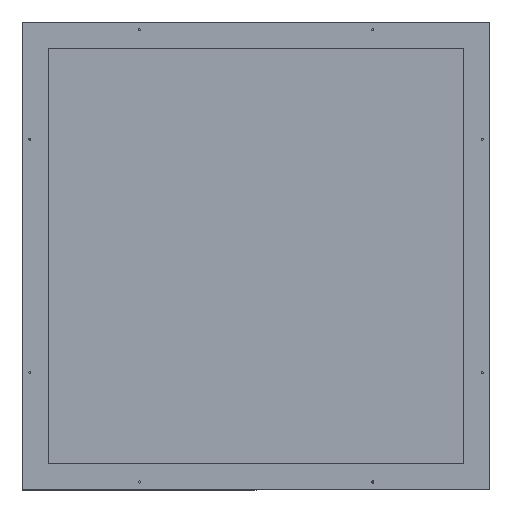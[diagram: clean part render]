
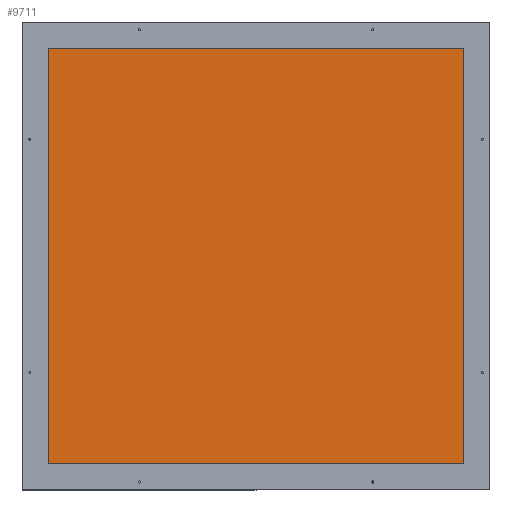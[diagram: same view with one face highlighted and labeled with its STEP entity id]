
A CAD part, top view. The second image highlights one B-rep face of the part: STEP entity #9711.
In plain terms, the highlighted planar face has unit normal (0, 0, 1).
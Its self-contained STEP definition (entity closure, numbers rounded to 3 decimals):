
#1183=FACE_OUTER_BOUND('',#1859,.T.);
#1859=EDGE_LOOP('',(#8883,#8884,#8885,#8886));
#2867=LINE('',#18886,#3883);
#2870=LINE('',#18892,#3886);
#2873=LINE('',#18898,#3889);
#2876=LINE('',#18902,#3892);
#3883=VECTOR('',#13019,10.);
#3886=VECTOR('',#13024,10.);
#3889=VECTOR('',#13029,10.);
#3892=VECTOR('',#13034,10.);
#4769=VERTEX_POINT('',#18883);
#4770=VERTEX_POINT('',#18885);
#4772=VERTEX_POINT('',#18891);
#4774=VERTEX_POINT('',#18897);
#6137=EDGE_CURVE('',#4770,#4769,#2867,.T.);
#6140=EDGE_CURVE('',#4772,#4770,#2870,.T.);
#6143=EDGE_CURVE('',#4774,#4772,#2873,.T.);
#6146=EDGE_CURVE('',#4769,#4774,#2876,.T.);
#8883=ORIENTED_EDGE('',*,*,#6146,.T.);
#8884=ORIENTED_EDGE('',*,*,#6143,.T.);
#8885=ORIENTED_EDGE('',*,*,#6140,.T.);
#8886=ORIENTED_EDGE('',*,*,#6137,.T.);
#9233=PLANE('',#10491);
#9711=ADVANCED_FACE('',(#1183),#9233,.T.);
#10491=AXIS2_PLACEMENT_3D('',#18903,#13035,#13036);
#13019=DIRECTION('',(0.,-1.,0.));
#13024=DIRECTION('',(-1.,0.,0.));
#13029=DIRECTION('',(0.,1.,0.));
#13034=DIRECTION('',(1.,0.,0.));
#13035=DIRECTION('center_axis',(0.,0.,1.));
#13036=DIRECTION('ref_axis',(0.,-1.,0.));
#18883=CARTESIAN_POINT('',(575.717,-619.5,-1446.166));
#18885=CARTESIAN_POINT('',(575.717,-22.5,-1446.166));
#18886=CARTESIAN_POINT('',(575.717,-619.5,-1446.166));
#18891=CARTESIAN_POINT('',(1172.717,-22.5,-1446.166));
#18892=CARTESIAN_POINT('',(575.717,-22.5,-1446.166));
#18897=CARTESIAN_POINT('',(1172.717,-619.5,-1446.166));
#18898=CARTESIAN_POINT('',(1172.717,-22.5,-1446.166));
#18902=CARTESIAN_POINT('',(1172.717,-619.5,-1446.166));
#18903=CARTESIAN_POINT('Origin',(874.217,-321.,-1446.166));
